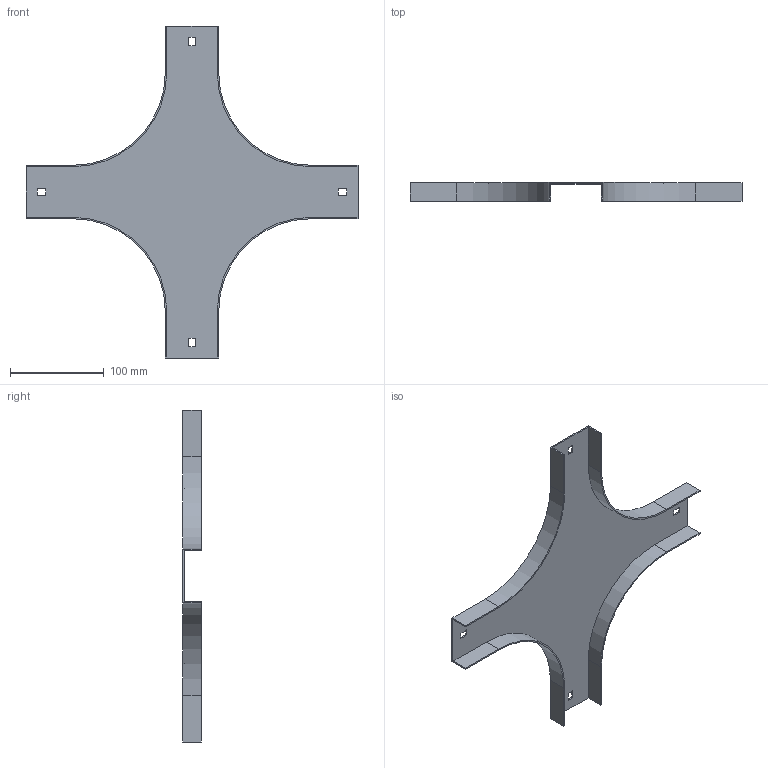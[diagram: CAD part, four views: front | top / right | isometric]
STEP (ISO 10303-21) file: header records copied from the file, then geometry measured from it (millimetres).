
FILE_DESCRIPTION (( 'STEP AP214' ), '1' );
FILE_NAME ('17N1R050.step', '2025-02-21T09:52:23', ( '' ), ( '' ), 'SwSTEP 2.0', 'SolidWorks 2023', '' );
FILE_SCHEMA (( 'AUTOMOTIVE_DESIGN' ));
Length unit declared in the file: millimetre
Products named in the file (1): 17N1R050
Bounding box: 354 x 20 x 354 mm (x, y, z)
Volume: 96207.3 mm3; surface area: 130554.7 mm2
Topology: 1 solids, 1 shells, 50 faces, 144 edges, 96 vertices
Faces by surface type: plane 42, cylinder 8
Entity records: 1663 total; most frequent: CARTESIAN_POINT 291, ORIENTED_EDGE 288, DIRECTION 262, EDGE_CURVE 144, VECTOR 128, LINE 128, VERTEX_POINT 96, AXIS2_PLACEMENT_3D 67
